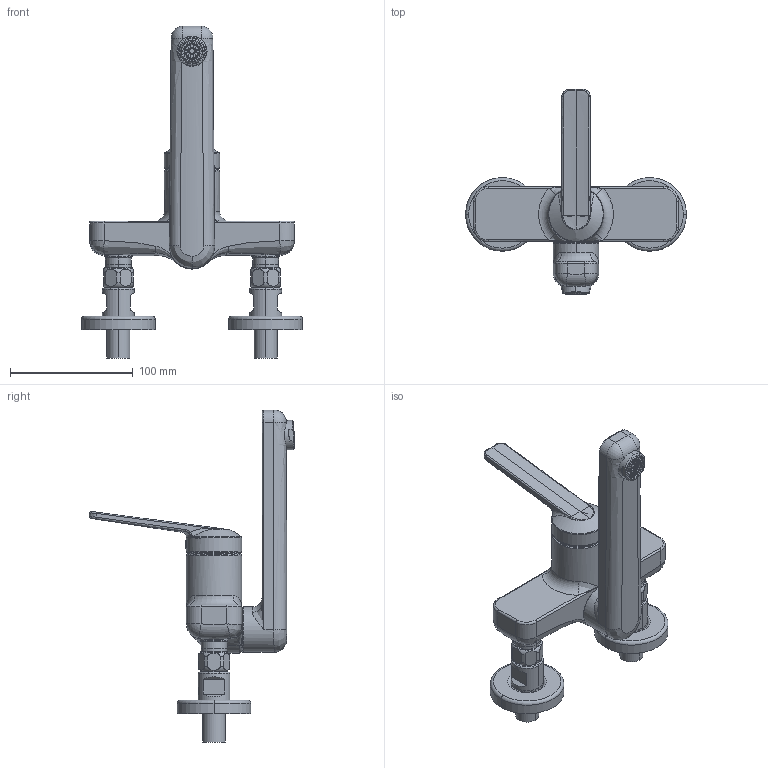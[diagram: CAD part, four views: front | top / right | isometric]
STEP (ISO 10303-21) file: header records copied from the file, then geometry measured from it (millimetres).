
FILE_DESCRIPTION((''),'2;1');
FILE_NAME('509418_ASM','2020-03-02T16:35:34',('LF994'),(''),'CREO PARAMETRIC BY PTC INC, 2018500','CREO PARAMETRIC BY PTC INC, 2018500','');
FILE_SCHEMA(('CONFIG_CONTROL_DESIGN'));
Products named in the file (47): 616128; 613394; 613030; 606181; 607514; 607726; 606180; 613032; 615117; 616077; 600515; 40_1001-1008_03300; 604248; 611137; 609218; 609217; 506329_ASM; 613636_AF6; 606155; 600343; 607557; 607558; 600341; 600270; 600271; 504008-503685_AF2_ASM; 612818_AF2; 613636_AF7; 504008-503685_AF3_ASM; 612818_AF3; 537709_T7; 537709_T1; 537709_T2; 537709_T3; 537709_T4; 537709_T5; 537709_T6; 537709_T8; 537709_T9; 537709_ASM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
Assembly tree (58 placements, depth 3):
  509418_ASM
    616128
    613394
    613030
    606181
    607514
    607726
    606180
    613032
    615117
    616077
    600515
    40_1001-1008_03300
    604248  x2
    611137  x2
    506329_ASM  x2
      609218
      609217
    504008-503685_AF2_ASM
      613636_AF6
      606155
      600343
      607557
      607558
      600341
      600270
      600271
    612818_AF2
    504008-503685_AF3_ASM
      613636_AF7
      606155
      600343
      607557
      607558
      600341
      600270
      600271
    612818_AF3
    537709_ASM
      537709_T7
      537709_T1
      537709_T2
      537709_T3
      537709_T4
      537709_T5
      537709_T6
      537709_T8
      537709_T9  x2
    616073
    616100_OHNE_KERBE
    A020661
    616066
    A016999
    616101
Bounding box: 180 x 167.44 x 270.5 mm (x, y, z)
Volume: 296432.8 mm3; surface area: 225363.9 mm2
Topology: 56 solids, 90 shells, 3797 faces, 9693 edges, 6110 vertices
Faces by surface type: plane 1512, cylinder 956, bspline 497, cone 388, torus 367, sphere 51, revolution 22, extrusion 4
Entity records: 137639 total; most frequent: CARTESIAN_POINT 53462, ORIENTED_EDGE 17776, DIRECTION 17251, EDGE_CURVE 8952, AXIS2_PLACEMENT_3D 6591, VERTEX_POINT 5670, VECTOR 4053, LINE 4049
